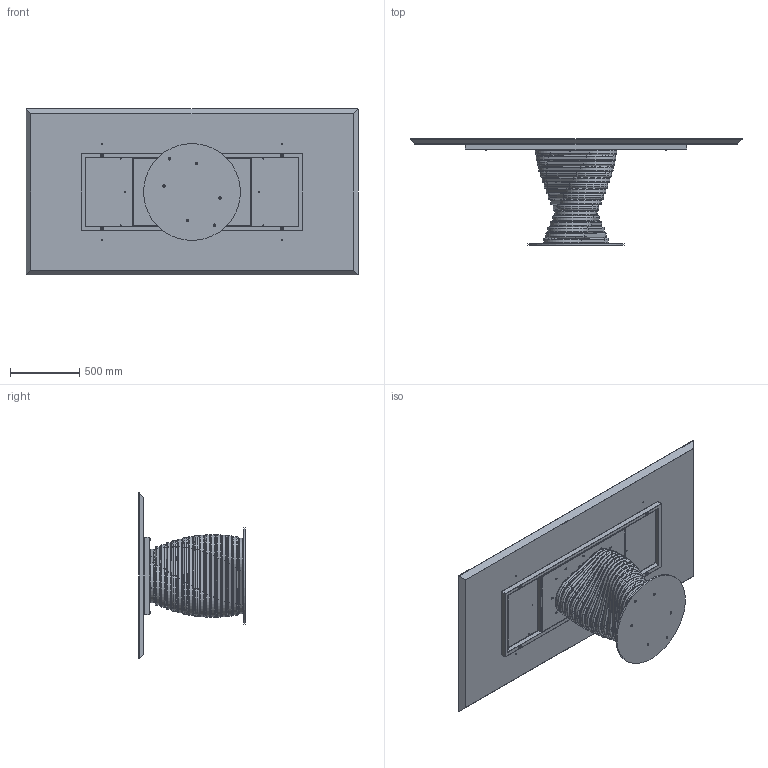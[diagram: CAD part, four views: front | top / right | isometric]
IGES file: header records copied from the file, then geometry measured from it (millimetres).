
Start section: SolidWorks IGES file using analytic representation for surfaces
Global section: file name: Y:\eforma\TECNICO\SOLIDWORKS\E-FORMA\1-TAVOLI\ROTOLO\02 parts\RO23W.IGS; native system: SolidWorks 2022; preprocessor: SolidWorks 2022; author: eforma.tech; date: 240807.153834; units: millimetre
Bounding box: 2400 x 770 x 1200 mm (x, y, z)
Volume: 118238258.6 mm3; surface area: 13738801 mm2
Topology: 94 solids, 94 shells, 1680 faces, 3998 edges, 2461 vertices
Faces by surface type: revolution 1018, plane 662
